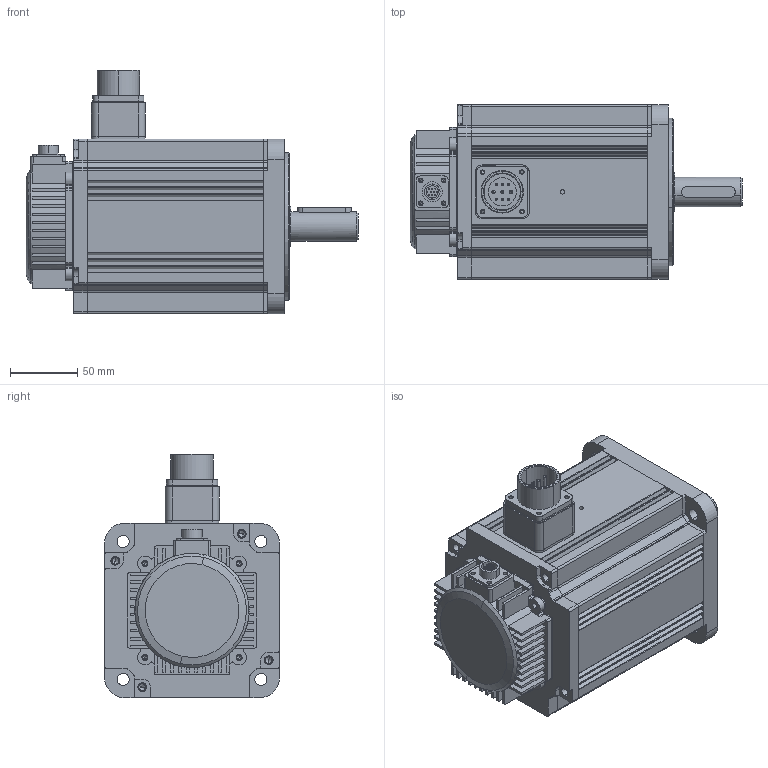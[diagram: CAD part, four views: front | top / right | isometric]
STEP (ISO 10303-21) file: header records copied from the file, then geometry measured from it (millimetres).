
FILE_DESCRIPTION (( 'STEP AP203' ), '1' );
FILE_NAME ('UMM-0020EA-B2 UMM-0020CA-B2_(02).STEP', '2021-12-29T16:09:20', ( '' ), ( '' ), 'SwSTEP 2.0', 'SolidWorks 2020', '' );
FILE_SCHEMA (( 'CONFIG_CONTROL_DESIGN' ));
Length unit declared in the file: millimetre
Products named in the file (1): UMM-0020EA-B2 UMM-0020CA-B2_(02)
Bounding box: 247 x 130 x 181.3 mm (x, y, z)
Volume: 1078022.2 mm3; surface area: 375378.7 mm2
Topology: 13 solids, 13 shells, 1454 faces, 4115 edges, 2648 vertices
Faces by surface type: cylinder 661, plane 511, bspline 162, cone 120
Entity records: 54939 total; most frequent: CARTESIAN_POINT 17475, ORIENTED_EDGE 8006, DIRECTION 7865, EDGE_CURVE 4003, AXIS2_PLACEMENT_3D 2989, VERTEX_POINT 2648, VECTOR 1887, LINE 1887
